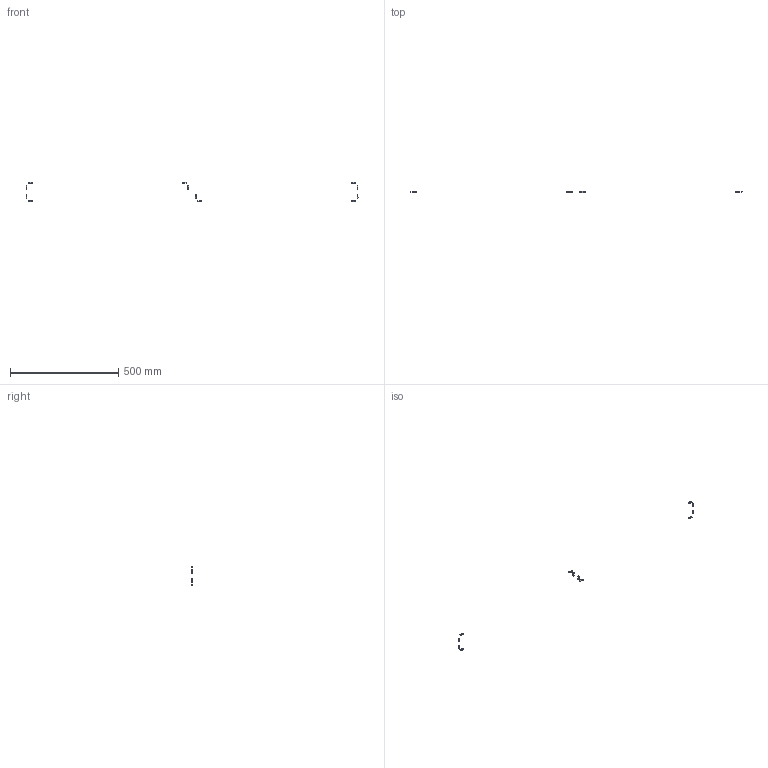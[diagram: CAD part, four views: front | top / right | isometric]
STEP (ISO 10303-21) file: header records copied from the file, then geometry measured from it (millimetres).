
FILE_DESCRIPTION(/* description */ (''),/* implementation_level */ '2;1');
FILE_NAME(/* name */ '4.frame-door#4.3#HNTPZ5-5',/* time_stamp */ '2014-12-01T20:12:41+01:00',/* author */ (''),/* organization */ (''),/* preprocessor_version */ 'ST-DEVELOPER v14',/* originating_system */ '',/* authorisation */ '');
FILE_SCHEMA (('AUTOMOTIVE_DESIGN'));
Length unit declared in the file: millimetre
Products named in the file (2): Document; nut tslot, post, M5
Assembly tree (8 placements, depth 2):
  Document
    nut tslot, post, M5  x8
Bounding box: 1534.2 x 8.3 x 90.4 mm (x, y, z)
Volume: 3780.3 mm3; surface area: 5034.3 mm2
Topology: 12 solids, 12 shells, 156 faces, 432 edges, 288 vertices
Faces by surface type: plane 132, bspline 24
Entity records: 4865 total; most frequent: CARTESIAN_POINT 2291, B_SPLINE_CURVE_WITH_KNOTS 500, ORIENTED_EDGE 360, PCURVE 360, DEFINITIONAL_REPRESENTATION 360, SURFACE_CURVE 180, EDGE_CURVE 180, VERTEX_POINT 120
